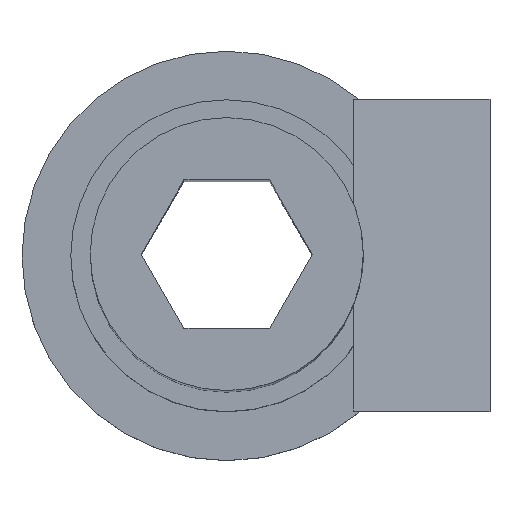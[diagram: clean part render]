
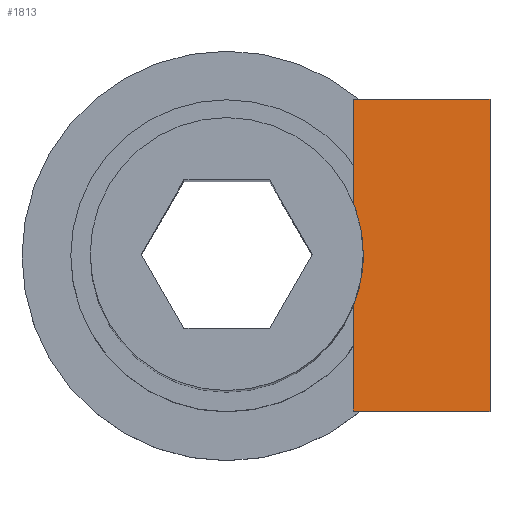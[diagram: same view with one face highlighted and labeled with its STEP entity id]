
A CAD part, top view. The second image highlights one B-rep face of the part: STEP entity #1813.
In plain terms, the highlighted planar face has unit normal (0.707, 0, 0.707) as drawn and (0.707, 0, -0.707) by its records, which use the part's own axes.
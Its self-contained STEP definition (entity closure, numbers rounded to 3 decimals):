
#1125 = CYLINDRICAL_SURFACE('',#1126,7.);
#1126 = AXIS2_PLACEMENT_3D('',#1127,#1128,#1129);
#1127 = CARTESIAN_POINT('',(0.,0.,113.));
#1128 = DIRECTION('',(0.,0.,1.));
#1129 = DIRECTION('',(1.,0.,-0.));
#1433 = VERTEX_POINT('',#1434);
#1434 = CARTESIAN_POINT('',(6.5,2.598,140.));
#1447 = PLANE('',#1448);
#1448 = AXIS2_PLACEMENT_3D('',#1449,#1450,#1451);
#1449 = CARTESIAN_POINT('',(6.5,0.,158.));
#1450 = DIRECTION('',(-1.,-0.,-0.));
#1451 = DIRECTION('',(0.,0.,-1.));
#1458 = EDGE_CURVE('',#1433,#1459,#1461,.T.);
#1459 = VERTEX_POINT('',#1460);
#1460 = CARTESIAN_POINT('',(7.,0.,140.5));
#1461 = SURFACE_CURVE('',#1462,(#1467,#1478),.PCURVE_S1.);
#1462 = ELLIPSE('',#1463,9.899,7.);
#1463 = AXIS2_PLACEMENT_3D('',#1464,#1465,#1466);
#1464 = CARTESIAN_POINT('',(0.,0.,133.5));
#1465 = DIRECTION('',(0.707,0.,-0.707));
#1466 = DIRECTION('',(0.707,0.,0.707));
#1467 = PCURVE('',#1125,#1468);
#1468 = DEFINITIONAL_REPRESENTATION('',(#1469),#1477);
#1469 = B_SPLINE_CURVE_WITH_KNOTS('',6,(#1470,#1471,#1472,#1473,#1474,
    #1475,#1476),.UNSPECIFIED.,.F.,.F.,(7,7),(5.689,
    6.283),.PIECEWISE_BEZIER_KNOTS.);
#1470 = CARTESIAN_POINT('',(0.594,26.3));
#1471 = CARTESIAN_POINT('',(0.495,26.688));
#1472 = CARTESIAN_POINT('',(0.396,27.008));
#1473 = CARTESIAN_POINT('',(0.297,27.253));
#1474 = CARTESIAN_POINT('',(0.198,27.418));
#1475 = CARTESIAN_POINT('',(0.099,27.5));
#1476 = CARTESIAN_POINT('',(0.,27.5));
#1477 = ( GEOMETRIC_REPRESENTATION_CONTEXT(2) 
PARAMETRIC_REPRESENTATION_CONTEXT() REPRESENTATION_CONTEXT('2D SPACE',''
  ) );
#1478 = PCURVE('',#1479,#1484);
#1479 = PLANE('',#1480);
#1480 = AXIS2_PLACEMENT_3D('',#1481,#1482,#1483);
#1481 = CARTESIAN_POINT('',(6.5,0.,140.));
#1482 = DIRECTION('',(0.707,0.,-0.707));
#1483 = DIRECTION('',(0.707,0.,0.707));
#1484 = DEFINITIONAL_REPRESENTATION('',(#1485),#1489);
#1485 = ELLIPSE('',#1486,9.899,7.);
#1486 = AXIS2_PLACEMENT_2D('',#1487,#1488);
#1487 = CARTESIAN_POINT('',(-9.192,0.));
#1488 = DIRECTION('',(1.,0.));
#1489 = ( GEOMETRIC_REPRESENTATION_CONTEXT(2) 
PARAMETRIC_REPRESENTATION_CONTEXT() REPRESENTATION_CONTEXT('2D SPACE',''
  ) );
#1514 = EDGE_CURVE('',#1459,#1515,#1517,.T.);
#1515 = VERTEX_POINT('',#1516);
#1516 = CARTESIAN_POINT('',(6.5,-2.598,140.));
#1517 = SURFACE_CURVE('',#1518,(#1523,#1534),.PCURVE_S1.);
#1518 = ELLIPSE('',#1519,9.899,7.);
#1519 = AXIS2_PLACEMENT_3D('',#1520,#1521,#1522);
#1520 = CARTESIAN_POINT('',(0.,0.,133.5));
#1521 = DIRECTION('',(0.707,0.,-0.707));
#1522 = DIRECTION('',(0.707,0.,0.707));
#1523 = PCURVE('',#1125,#1524);
#1524 = DEFINITIONAL_REPRESENTATION('',(#1525),#1533);
#1525 = B_SPLINE_CURVE_WITH_KNOTS('',6,(#1526,#1527,#1528,#1529,#1530,
    #1531,#1532),.UNSPECIFIED.,.F.,.F.,(7,7),(0.,0.594),
  .PIECEWISE_BEZIER_KNOTS.);
#1526 = CARTESIAN_POINT('',(6.283,27.5));
#1527 = CARTESIAN_POINT('',(6.184,27.5));
#1528 = CARTESIAN_POINT('',(6.085,27.418));
#1529 = CARTESIAN_POINT('',(5.986,27.253));
#1530 = CARTESIAN_POINT('',(5.887,27.008));
#1531 = CARTESIAN_POINT('',(5.788,26.688));
#1532 = CARTESIAN_POINT('',(5.689,26.3));
#1533 = ( GEOMETRIC_REPRESENTATION_CONTEXT(2) 
PARAMETRIC_REPRESENTATION_CONTEXT() REPRESENTATION_CONTEXT('2D SPACE',''
  ) );
#1534 = PCURVE('',#1479,#1535);
#1535 = DEFINITIONAL_REPRESENTATION('',(#1536),#1540);
#1536 = ELLIPSE('',#1537,9.899,7.);
#1537 = AXIS2_PLACEMENT_2D('',#1538,#1539);
#1538 = CARTESIAN_POINT('',(-9.192,0.));
#1539 = DIRECTION('',(1.,0.));
#1540 = ( GEOMETRIC_REPRESENTATION_CONTEXT(2) 
PARAMETRIC_REPRESENTATION_CONTEXT() REPRESENTATION_CONTEXT('2D SPACE',''
  ) );
#1557 = PLANE('',#1558);
#1558 = AXIS2_PLACEMENT_3D('',#1559,#1560,#1561);
#1559 = CARTESIAN_POINT('',(6.5,0.,158.));
#1560 = DIRECTION('',(-1.,-0.,-0.));
#1561 = DIRECTION('',(0.,0.,-1.));
#1618 = PLANE('',#1619);
#1619 = AXIS2_PLACEMENT_3D('',#1620,#1621,#1622);
#1620 = CARTESIAN_POINT('',(13.5,0.,147.));
#1621 = DIRECTION('',(1.,0.,-0.));
#1622 = DIRECTION('',(0.,0.,1.));
#1646 = PLANE('',#1647);
#1647 = AXIS2_PLACEMENT_3D('',#1648,#1649,#1650);
#1648 = CARTESIAN_POINT('',(9.466,8.,150.025));
#1649 = DIRECTION('',(0.,-1.,0.));
#1650 = DIRECTION('',(1.,0.,0.));
#1718 = PLANE('',#1719);
#1719 = AXIS2_PLACEMENT_3D('',#1720,#1721,#1722);
#1720 = CARTESIAN_POINT('',(9.466,-8.,150.025));
#1721 = DIRECTION('',(0.,-1.,0.));
#1722 = DIRECTION('',(1.,0.,0.));
#1735 = EDGE_CURVE('',#1515,#1736,#1738,.T.);
#1736 = VERTEX_POINT('',#1737);
#1737 = CARTESIAN_POINT('',(6.5,-8.,140.));
#1738 = SURFACE_CURVE('',#1739,(#1743,#1750),.PCURVE_S1.);
#1739 = LINE('',#1740,#1741);
#1740 = CARTESIAN_POINT('',(6.5,8.,140.));
#1741 = VECTOR('',#1742,1.);
#1742 = DIRECTION('',(0.,-1.,0.));
#1743 = PCURVE('',#1557,#1744);
#1744 = DEFINITIONAL_REPRESENTATION('',(#1745),#1749);
#1745 = LINE('',#1746,#1747);
#1746 = CARTESIAN_POINT('',(18.,-8.));
#1747 = VECTOR('',#1748,1.);
#1748 = DIRECTION('',(0.,1.));
#1749 = ( GEOMETRIC_REPRESENTATION_CONTEXT(2) 
PARAMETRIC_REPRESENTATION_CONTEXT() REPRESENTATION_CONTEXT('2D SPACE',''
  ) );
#1750 = PCURVE('',#1479,#1751);
#1751 = DEFINITIONAL_REPRESENTATION('',(#1752),#1756);
#1752 = LINE('',#1753,#1754);
#1753 = CARTESIAN_POINT('',(0.,-8.));
#1754 = VECTOR('',#1755,1.);
#1755 = DIRECTION('',(0.,1.));
#1756 = ( GEOMETRIC_REPRESENTATION_CONTEXT(2) 
PARAMETRIC_REPRESENTATION_CONTEXT() REPRESENTATION_CONTEXT('2D SPACE',''
  ) );
#1813 = ADVANCED_FACE('',(#1814),#1479,.T.);
#1814 = FACE_BOUND('',#1815,.T.);
#1815 = EDGE_LOOP('',(#1816,#1839,#1862,#1885,#1906,#1907,#1908));
#1816 = ORIENTED_EDGE('',*,*,#1817,.F.);
#1817 = EDGE_CURVE('',#1818,#1433,#1820,.T.);
#1818 = VERTEX_POINT('',#1819);
#1819 = CARTESIAN_POINT('',(6.5,8.,140.));
#1820 = SURFACE_CURVE('',#1821,(#1825,#1832),.PCURVE_S1.);
#1821 = LINE('',#1822,#1823);
#1822 = CARTESIAN_POINT('',(6.5,8.,140.));
#1823 = VECTOR('',#1824,1.);
#1824 = DIRECTION('',(0.,-1.,0.));
#1825 = PCURVE('',#1479,#1826);
#1826 = DEFINITIONAL_REPRESENTATION('',(#1827),#1831);
#1827 = LINE('',#1828,#1829);
#1828 = CARTESIAN_POINT('',(0.,-8.));
#1829 = VECTOR('',#1830,1.);
#1830 = DIRECTION('',(0.,1.));
#1831 = ( GEOMETRIC_REPRESENTATION_CONTEXT(2) 
PARAMETRIC_REPRESENTATION_CONTEXT() REPRESENTATION_CONTEXT('2D SPACE',''
  ) );
#1832 = PCURVE('',#1447,#1833);
#1833 = DEFINITIONAL_REPRESENTATION('',(#1834),#1838);
#1834 = LINE('',#1835,#1836);
#1835 = CARTESIAN_POINT('',(18.,-8.));
#1836 = VECTOR('',#1837,1.);
#1837 = DIRECTION('',(0.,1.));
#1838 = ( GEOMETRIC_REPRESENTATION_CONTEXT(2) 
PARAMETRIC_REPRESENTATION_CONTEXT() REPRESENTATION_CONTEXT('2D SPACE',''
  ) );
#1839 = ORIENTED_EDGE('',*,*,#1840,.T.);
#1840 = EDGE_CURVE('',#1818,#1841,#1843,.T.);
#1841 = VERTEX_POINT('',#1842);
#1842 = CARTESIAN_POINT('',(13.5,8.,147.));
#1843 = SURFACE_CURVE('',#1844,(#1848,#1855),.PCURVE_S1.);
#1844 = LINE('',#1845,#1846);
#1845 = CARTESIAN_POINT('',(6.5,8.,140.));
#1846 = VECTOR('',#1847,1.);
#1847 = DIRECTION('',(0.707,0.,0.707));
#1848 = PCURVE('',#1479,#1849);
#1849 = DEFINITIONAL_REPRESENTATION('',(#1850),#1854);
#1850 = LINE('',#1851,#1852);
#1851 = CARTESIAN_POINT('',(0.,-8.));
#1852 = VECTOR('',#1853,1.);
#1853 = DIRECTION('',(1.,0.));
#1854 = ( GEOMETRIC_REPRESENTATION_CONTEXT(2) 
PARAMETRIC_REPRESENTATION_CONTEXT() REPRESENTATION_CONTEXT('2D SPACE',''
  ) );
#1855 = PCURVE('',#1646,#1856);
#1856 = DEFINITIONAL_REPRESENTATION('',(#1857),#1861);
#1857 = LINE('',#1858,#1859);
#1858 = CARTESIAN_POINT('',(-2.966,-10.025));
#1859 = VECTOR('',#1860,1.);
#1860 = DIRECTION('',(0.707,0.707));
#1861 = ( GEOMETRIC_REPRESENTATION_CONTEXT(2) 
PARAMETRIC_REPRESENTATION_CONTEXT() REPRESENTATION_CONTEXT('2D SPACE',''
  ) );
#1862 = ORIENTED_EDGE('',*,*,#1863,.T.);
#1863 = EDGE_CURVE('',#1841,#1864,#1866,.T.);
#1864 = VERTEX_POINT('',#1865);
#1865 = CARTESIAN_POINT('',(13.5,-8.,147.));
#1866 = SURFACE_CURVE('',#1867,(#1871,#1878),.PCURVE_S1.);
#1867 = LINE('',#1868,#1869);
#1868 = CARTESIAN_POINT('',(13.5,8.,147.));
#1869 = VECTOR('',#1870,1.);
#1870 = DIRECTION('',(0.,-1.,0.));
#1871 = PCURVE('',#1479,#1872);
#1872 = DEFINITIONAL_REPRESENTATION('',(#1873),#1877);
#1873 = LINE('',#1874,#1875);
#1874 = CARTESIAN_POINT('',(9.899,-8.));
#1875 = VECTOR('',#1876,1.);
#1876 = DIRECTION('',(0.,1.));
#1877 = ( GEOMETRIC_REPRESENTATION_CONTEXT(2) 
PARAMETRIC_REPRESENTATION_CONTEXT() REPRESENTATION_CONTEXT('2D SPACE',''
  ) );
#1878 = PCURVE('',#1618,#1879);
#1879 = DEFINITIONAL_REPRESENTATION('',(#1880),#1884);
#1880 = LINE('',#1881,#1882);
#1881 = CARTESIAN_POINT('',(0.,-8.));
#1882 = VECTOR('',#1883,1.);
#1883 = DIRECTION('',(0.,1.));
#1884 = ( GEOMETRIC_REPRESENTATION_CONTEXT(2) 
PARAMETRIC_REPRESENTATION_CONTEXT() REPRESENTATION_CONTEXT('2D SPACE',''
  ) );
#1885 = ORIENTED_EDGE('',*,*,#1886,.F.);
#1886 = EDGE_CURVE('',#1736,#1864,#1887,.T.);
#1887 = SURFACE_CURVE('',#1888,(#1892,#1899),.PCURVE_S1.);
#1888 = LINE('',#1889,#1890);
#1889 = CARTESIAN_POINT('',(6.5,-8.,140.));
#1890 = VECTOR('',#1891,1.);
#1891 = DIRECTION('',(0.707,0.,0.707));
#1892 = PCURVE('',#1479,#1893);
#1893 = DEFINITIONAL_REPRESENTATION('',(#1894),#1898);
#1894 = LINE('',#1895,#1896);
#1895 = CARTESIAN_POINT('',(0.,8.));
#1896 = VECTOR('',#1897,1.);
#1897 = DIRECTION('',(1.,0.));
#1898 = ( GEOMETRIC_REPRESENTATION_CONTEXT(2) 
PARAMETRIC_REPRESENTATION_CONTEXT() REPRESENTATION_CONTEXT('2D SPACE',''
  ) );
#1899 = PCURVE('',#1718,#1900);
#1900 = DEFINITIONAL_REPRESENTATION('',(#1901),#1905);
#1901 = LINE('',#1902,#1903);
#1902 = CARTESIAN_POINT('',(-2.966,-10.025));
#1903 = VECTOR('',#1904,1.);
#1904 = DIRECTION('',(0.707,0.707));
#1905 = ( GEOMETRIC_REPRESENTATION_CONTEXT(2) 
PARAMETRIC_REPRESENTATION_CONTEXT() REPRESENTATION_CONTEXT('2D SPACE',''
  ) );
#1906 = ORIENTED_EDGE('',*,*,#1735,.F.);
#1907 = ORIENTED_EDGE('',*,*,#1514,.F.);
#1908 = ORIENTED_EDGE('',*,*,#1458,.F.);
